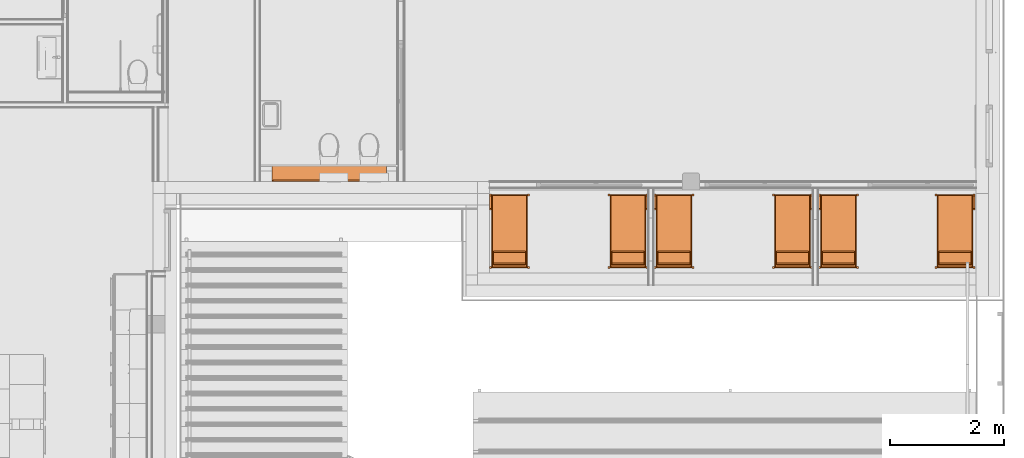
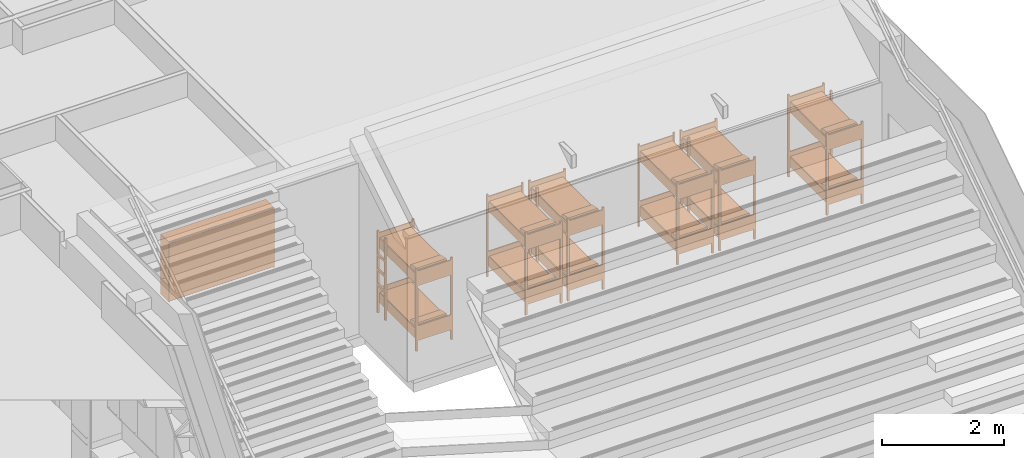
# One storey, part 108 of 167: 7 proxies.
"""IFC2X3 building model written with IfcOpenShell, lengths in millimetres."""

from ifc_helpers import new_model, entity, si_unit, converted_unit, derived_unit, money_unit, direction, frame, origin_with_axes, place, context, subcontext, project, spatial, faceted_brep, source, transform, mapped, type_object, type_shapes, element, save


model = new_model("IFC2X3")

# Units and contexts
model_context = context("Model", 3, precision=0.01, world=origin_with_axes(), true_north=direction((0.0, 1.0)))
plan_context = context("Plan", 3, precision=0.01, world=origin_with_axes(), true_north=direction((0.0, 1.0)))
body_context = subcontext(model_context, "Body", "Model", "MODEL_VIEW")
ifc_project = project(units=[si_unit("LENGTHUNIT", "METRE", prefix="MILLI"), si_unit("AREAUNIT", "SQUARE_METRE"), si_unit("VOLUMEUNIT", "CUBIC_METRE"), converted_unit("PLANEANGLEUNIT", "DEGREE", entity("IfcPlaneAngleMeasure", 0.0174532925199), si_unit("PLANEANGLEUNIT", "RADIAN"), dimensions=[0, 0, 0, 0, 0, 0, 0]), si_unit("SOLIDANGLEUNIT", "STERADIAN"), money_unit("EUR"), converted_unit("TIMEUNIT", "Year", entity("IfcTimeMeasure", 31556926.0), si_unit("TIMEUNIT", "SECOND"), dimensions=[0, 0, 1, 0, 0, 0, 0]), si_unit("MASSUNIT", "GRAM", prefix="KILO"), si_unit("THERMODYNAMICTEMPERATUREUNIT", "DEGREE_CELSIUS"), si_unit("LUMINOUSINTENSITYUNIT", "LUMEN"), si_unit("ENERGYUNIT", "JOULE", prefix="MEGA"), derived_unit("THERMALCONDUCTANCEUNIT", [(si_unit("POWERUNIT", "WATT"), 1), (si_unit("LENGTHUNIT", "METRE"), -1), (si_unit("THERMODYNAMICTEMPERATUREUNIT", "KELVIN"), -1)]), derived_unit("SPECIFICHEATCAPACITYUNIT", [(si_unit("ENERGYUNIT", "JOULE"), 1), (si_unit("MASSUNIT", "GRAM", prefix="KILO"), -1), (si_unit("THERMODYNAMICTEMPERATUREUNIT", "KELVIN"), -1)]), derived_unit("MASSDENSITYUNIT", [(si_unit("MASSUNIT", "GRAM", prefix="KILO"), 1), (si_unit("VOLUMEUNIT", "CUBIC_METRE"), -1)])], contexts=[model_context, plan_context])

# Site, building, storey
site_placement = place(None, origin_with_axes())
site = spatial("IfcSite", under=ifc_project, at=site_placement, Name="Site", CompositionType="ELEMENT")
building_placement = place(site_placement, origin_with_axes())
building = spatial("IfcBuilding", under=site, at=building_placement, Name="Naam gebouw", CompositionType="ELEMENT")
storey_placement = place(building_placement, origin_with_axes())
storey = spatial("IfcBuildingStorey", under=building, at=storey_placement, Name="Begane grond", CompositionType="ELEMENT", Elevation=0.0)

# Proxies
building_element_proxy_type_1 = type_object("IfcBuildingElementProxyType", Name="Stapelbed 24", PredefinedType="NOTDEFINED")
shared_shape_1 = source(origin_with_axes(), body_context, "Body", "Brep", [
    faceted_brep([(35.0, 1265.0, 0.0), (0.0, 1265.0, 0.0), (0.0, 1296.25, 0.0), (35.0, 1296.25, 0.0), (35.0, 1265.0, 1650.0), (0.0, 1265.0, 1650.0), (0.0, 1296.25, 1650.0), (35.0, 1296.25, 1650.0)], [[[0, 1, 2, 3]], [[1, 0, 4, 5]], [[2, 1, 5, 6]], [[3, 2, 6, 7]], [[0, 3, 7, 4]], [[5, 4, 7, 6]]]),
    faceted_brep([(35.0, -3.75, 0.0), (0.0, -3.75, 0.0), (0.0, 27.5, 0.0), (35.0, 27.5, 0.0), (35.0, -3.75, 1650.0), (0.0, -3.75, 1650.0), (0.0, 27.5, 1650.0), (35.0, 27.5, 1650.0)], [[[0, 1, 2, 3]], [[1, 0, 4, 5]], [[2, 1, 5, 6]], [[3, 2, 6, 7]], [[0, 3, 7, 4]], [[5, 4, 7, 6]]]),
    faceted_brep([(700.0, -3.75, 0.0), (665.0, -3.75, 0.0), (665.0, 27.5, 0.0), (700.0, 27.5, 0.0), (700.0, -3.75, 1650.0), (665.0, -3.75, 1650.0), (665.0, 27.5, 1650.0), (700.0, 27.5, 1650.0)], [[[0, 1, 2, 3]], [[1, 0, 4, 5]], [[2, 1, 5, 6]], [[3, 2, 6, 7]], [[0, 3, 7, 4]], [[5, 4, 7, 6]]]),
    faceted_brep([(700.0, 246.25, 0.0), (665.0, 246.25, 0.0), (665.0, 277.5, 0.0), (700.0, 277.5, 0.0), (700.0, 246.25, 1650.0), (665.0, 246.25, 1650.0), (665.0, 277.5, 1650.0), (700.0, 277.5, 1650.0)], [[[0, 1, 2, 3]], [[1, 0, 4, 5]], [[2, 1, 5, 6]], [[3, 2, 6, 7]], [[0, 3, 7, 4]], [[5, 4, 7, 6]]]),
    faceted_brep([(700.0, 1265.0, 0.0), (665.0, 1265.0, 0.0), (665.0, 1296.25, 0.0), (700.0, 1296.25, 0.0), (700.0, 1265.0, 1650.0), (665.0, 1265.0, 1650.0), (665.0, 1296.25, 1650.0), (700.0, 1296.25, 1650.0)], [[[0, 1, 2, 3]], [[1, 0, 4, 5]], [[2, 1, 5, 6]], [[3, 2, 6, 7]], [[0, 3, 7, 4]], [[5, 4, 7, 6]]]),
    faceted_brep([(665.0, 27.5, 550.0), (700.0, 27.5, 550.0), (700.0, 27.5, 600.0), (665.0, 27.5, 600.0), (665.0, 246.25, 550.0), (700.0, 246.25, 550.0), (700.0, 246.25, 600.0), (665.0, 246.25, 600.0)], [[[0, 1, 2, 3]], [[0, 4, 5, 1]], [[1, 5, 6, 2]], [[3, 2, 6, 7]], [[4, 0, 3, 7]], [[5, 4, 7, 6]]]),
    faceted_brep([(665.0, 27.5, 850.0), (700.0, 27.5, 850.0), (700.0, 27.5, 900.0), (665.0, 27.5, 900.0), (665.0, 246.25, 850.0), (700.0, 246.25, 850.0), (700.0, 246.25, 900.0), (665.0, 246.25, 900.0)], [[[0, 1, 2, 3]], [[0, 4, 5, 1]], [[1, 5, 6, 2]], [[3, 2, 6, 7]], [[4, 0, 3, 7]], [[5, 4, 7, 6]]]),
    faceted_brep([(665.0, 27.5, 1150.0), (700.0, 27.5, 1150.0), (700.0, 27.5, 1200.0), (665.0, 27.5, 1200.0), (665.0, 246.25, 1150.0), (700.0, 246.25, 1150.0), (700.0, 246.25, 1200.0), (665.0, 246.25, 1200.0)], [[[0, 1, 2, 3]], [[0, 4, 5, 1]], [[1, 5, 6, 2]], [[3, 2, 6, 7]], [[4, 0, 3, 7]], [[5, 4, 7, 6]]]),
    faceted_brep([(35.0, 1271.25, 200.0), (665.0, 1271.25, 200.0), (665.0, 21.25, 200.0), (35.0, 21.25, 200.0), (35.0, 1271.25, 300.0), (665.0, 1271.25, 300.0), (665.0, 21.25, 300.0), (35.0, 21.25, 300.0)], [[[0, 1, 2, 3]], [[0, 4, 5, 1]], [[1, 5, 6, 2]], [[3, 2, 6, 7]], [[4, 0, 3, 7]], [[5, 4, 7, 6]]]),
    faceted_brep([(665.0, 1271.25, 300.0), (665.0, 1271.25, 375.0), (665.0, 21.25, 375.0), (665.0, 21.25, 300.0), (35.0, 1271.25, 300.0), (35.0, 1271.25, 375.0), (40.1256313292, 1271.25, 392.67766953), (52.5, 1271.25, 400.0), (647.5, 1271.25, 400.0), (659.874368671, 1271.25, 392.67766953), (659.874368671, 21.25, 392.67766953), (647.5, 21.25, 400.0), (52.5, 21.25, 400.0), (40.1256313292, 21.25, 392.67766953), (35.0, 21.25, 375.0), (35.0, 21.25, 300.0)], [[[0, 1, 2, 3]], [[0, 4, 5, 6, 7, 8, 9, 1]], [[1, 9, 10, 2]], [[3, 2, 10, 11, 12, 13, 14, 15]], [[4, 0, 3, 15]], [[5, 4, 15, 14]], [[6, 5, 14, 13]], [[7, 6, 13, 12]], [[8, 7, 12, 11]], [[9, 8, 11, 10]]]),
    faceted_brep([(35.0, 1271.25, 1300.0), (665.0, 1271.25, 1300.0), (665.0, 21.25, 1300.0), (35.0, 21.25, 1300.0), (35.0, 1271.25, 1400.0), (665.0, 1271.25, 1400.0), (665.0, 21.25, 1400.0), (35.0, 21.25, 1400.0)], [[[0, 1, 2, 3]], [[0, 4, 5, 1]], [[1, 5, 6, 2]], [[3, 2, 6, 7]], [[4, 0, 3, 7]], [[5, 4, 7, 6]]]),
    faceted_brep([(665.0, 1271.25, 1400.0), (665.0, 1271.25, 1475.0), (665.0, 21.25, 1475.0), (665.0, 21.25, 1400.0), (35.0, 1271.25, 1400.0), (35.0, 1271.25, 1475.0), (40.1256313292, 1271.25, 1492.67766953), (52.5, 1271.25, 1500.0), (647.5, 1271.25, 1500.0), (659.874368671, 1271.25, 1492.67766953), (659.874368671, 21.25, 1492.67766953), (647.5, 21.25, 1500.0), (52.5, 21.25, 1500.0), (40.1256313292, 21.25, 1492.67766953), (35.0, 21.25, 1475.0), (35.0, 21.25, 1400.0)], [[[0, 1, 2, 3]], [[0, 4, 5, 6, 7, 8, 9, 1]], [[1, 9, 10, 2]], [[3, 2, 10, 11, 12, 13, 14, 15]], [[4, 0, 3, 15]], [[5, 4, 15, 14]], [[6, 5, 14, 13]], [[7, 6, 13, 12]], [[8, 7, 12, 11]], [[9, 8, 11, 10]]]),
    faceted_brep([(35.0, 21.25, 200.0), (665.0, 21.25, 200.0), (665.0, 2.5, 200.0), (35.0, 2.5, 200.0), (35.0, 21.25, 500.0), (665.0, 21.25, 500.0), (665.0, 2.5, 500.0), (35.0, 2.5, 500.0)], [[[0, 1, 2, 3]], [[0, 4, 5, 1]], [[1, 5, 6, 2]], [[3, 2, 6, 7]], [[4, 0, 3, 7]], [[5, 4, 7, 6]]]),
    faceted_brep([(35.0, 21.25, 1300.0), (665.0, 21.25, 1300.0), (665.0, 2.5, 1300.0), (35.0, 2.5, 1300.0), (35.0, 21.25, 1600.0), (665.0, 21.25, 1600.0), (665.0, 2.5, 1600.0), (35.0, 2.5, 1600.0)], [[[0, 1, 2, 3]], [[0, 4, 5, 1]], [[1, 5, 6, 2]], [[3, 2, 6, 7]], [[4, 0, 3, 7]], [[5, 4, 7, 6]]]),
    faceted_brep([(35.0, 1290.0, 200.0), (665.0, 1290.0, 200.0), (665.0, 1271.25, 200.0), (35.0, 1271.25, 200.0), (35.0, 1290.0, 500.0), (665.0, 1290.0, 500.0), (665.0, 1271.25, 500.0), (35.0, 1271.25, 500.0)], [[[0, 1, 2, 3]], [[0, 4, 5, 1]], [[1, 5, 6, 2]], [[3, 2, 6, 7]], [[4, 0, 3, 7]], [[5, 4, 7, 6]]]),
    faceted_brep([(35.0, 1290.0, 1300.0), (665.0, 1290.0, 1300.0), (665.0, 1271.25, 1300.0), (35.0, 1271.25, 1300.0), (35.0, 1290.0, 1600.0), (665.0, 1290.0, 1600.0), (665.0, 1271.25, 1600.0), (35.0, 1271.25, 1600.0)], [[[0, 1, 2, 3]], [[0, 4, 5, 1]], [[1, 5, 6, 2]], [[3, 2, 6, 7]], [[4, 0, 3, 7]], [[5, 4, 7, 6]]]),
    faceted_brep([(70.0, 1240.0, 400.0), (70.0, 1240.0, 443.4), (630.0, 1240.0, 443.4), (630.0, 1240.0, 400.0), (70.0, 990.0, 400.0), (70.0, 996.575217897, 436.730697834), (70.0, 1017.375, 455.5), (70.0, 1204.875, 493.0), (70.0, 1229.43106723, 480.878660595), (630.0, 1229.43106723, 480.878660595), (630.0, 1204.875, 493.0), (630.0, 1017.375, 455.5), (630.0, 996.575217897, 436.730697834), (630.0, 990.0, 400.0)], [[[0, 1, 2, 3]], [[0, 4, 5, 6, 7, 8, 1]], [[1, 8, 9, 2]], [[3, 2, 9, 10, 11, 12, 13]], [[4, 0, 3, 13]], [[5, 4, 13, 12]], [[6, 5, 12, 11]], [[7, 6, 11, 10]], [[8, 7, 10, 9]]]),
    faceted_brep([(70.0, 1240.0, 1500.0), (70.0, 1240.0, 1543.4), (630.0, 1240.0, 1543.4), (630.0, 1240.0, 1500.0), (70.0, 990.0, 1500.0), (70.0, 996.575217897, 1536.73069783), (70.0, 1017.375, 1555.5), (70.0, 1204.875, 1593.0), (70.0, 1229.43106723, 1580.8786606), (630.0, 1229.43106723, 1580.8786606), (630.0, 1204.875, 1593.0), (630.0, 1017.375, 1555.5), (630.0, 996.575217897, 1536.73069783), (630.0, 990.0, 1500.0)], [[[0, 1, 2, 3]], [[0, 4, 5, 6, 7, 8, 1]], [[1, 8, 9, 2]], [[3, 2, 9, 10, 11, 12, 13]], [[4, 0, 3, 13]], [[5, 4, 13, 12]], [[6, 5, 12, 11]], [[7, 6, 11, 10]], [[8, 7, 10, 9]]]),
])
for number, where, z_axis, x_axis in (
    (1, (38049.999841, 31075.0000098, 0.0), (0.0, 0.0, 1.0), (-1.0, 0.0, 0.0)),
    (2, (35174.9998888, 31075.0000131, 0.0), (0.0, 0.0, 1.0), (-1.0, 0.0, 0.0)),
    (3, (40924.9998595, 31075.0000242, 0.0), (0.0, 0.0, 1.0), (-1.0, 0.0, 0.0)),
):
    element("IfcBuildingElementProxy", number, at=place(storey_placement, frame(where, z_axis=z_axis, x_axis=x_axis)), inside=storey, type_object=building_element_proxy_type_1, Name="__object-x", context=body_context, shape_type="MappedRepresentation", body=[
        mapped(shared_shape_1, transform((0.0, 0.0, 0.0))),
    ])
shared_shape_2 = source(origin_with_axes(), body_context, "Body", "Brep", [
    faceted_brep([(-35.0, 1265.0, 0.0), (-35.0, 1296.25, 0.0), (0.0, 1296.25, 0.0), (0.0, 1265.0, 0.0), (-35.0, 1265.0, 1650.0), (-35.0, 1296.25, 1650.0), (0.0, 1296.25, 1650.0), (0.0, 1265.0, 1650.0)], [[[0, 1, 2, 3]], [[0, 4, 5, 1]], [[1, 5, 6, 2]], [[2, 6, 7, 3]], [[3, 7, 4, 0]], [[7, 6, 5, 4]]]),
    faceted_brep([(-35.0, -3.75, 0.0), (-35.0, 27.5, 0.0), (0.0, 27.5, 0.0), (0.0, -3.75, 0.0), (-35.0, -3.75, 1650.0), (-35.0, 27.5, 1650.0), (0.0, 27.5, 1650.0), (0.0, -3.75, 1650.0)], [[[0, 1, 2, 3]], [[0, 4, 5, 1]], [[1, 5, 6, 2]], [[2, 6, 7, 3]], [[3, 7, 4, 0]], [[7, 6, 5, 4]]]),
    faceted_brep([(-700.0, -3.75, 0.0), (-700.0, 27.5, 0.0), (-665.0, 27.5, 0.0), (-665.0, -3.75, 0.0), (-700.0, -3.75, 1650.0), (-700.0, 27.5, 1650.0), (-665.0, 27.5, 1650.0), (-665.0, -3.75, 1650.0)], [[[0, 1, 2, 3]], [[0, 4, 5, 1]], [[1, 5, 6, 2]], [[2, 6, 7, 3]], [[3, 7, 4, 0]], [[7, 6, 5, 4]]]),
    faceted_brep([(-700.0, 246.25, 0.0), (-700.0, 277.5, 0.0), (-665.0, 277.5, 0.0), (-665.0, 246.25, 0.0), (-700.0, 246.25, 1650.0), (-700.0, 277.5, 1650.0), (-665.0, 277.5, 1650.0), (-665.0, 246.25, 1650.0)], [[[0, 1, 2, 3]], [[0, 4, 5, 1]], [[1, 5, 6, 2]], [[2, 6, 7, 3]], [[3, 7, 4, 0]], [[7, 6, 5, 4]]]),
    faceted_brep([(-700.0, 1265.0, 0.0), (-700.0, 1296.25, 0.0), (-665.0, 1296.25, 0.0), (-665.0, 1265.0, 0.0), (-700.0, 1265.0, 1650.0), (-700.0, 1296.25, 1650.0), (-665.0, 1296.25, 1650.0), (-665.0, 1265.0, 1650.0)], [[[0, 1, 2, 3]], [[0, 4, 5, 1]], [[1, 5, 6, 2]], [[2, 6, 7, 3]], [[3, 7, 4, 0]], [[7, 6, 5, 4]]]),
    faceted_brep([(-665.0, 27.5, 550.0), (-665.0, 27.5, 600.0), (-700.0, 27.5, 600.0), (-700.0, 27.5, 550.0), (-665.0, 246.25, 550.0), (-665.0, 246.25, 600.0), (-700.0, 246.25, 600.0), (-700.0, 246.25, 550.0)], [[[0, 1, 2, 3]], [[4, 5, 1, 0]], [[1, 5, 6, 2]], [[3, 2, 6, 7]], [[0, 3, 7, 4]], [[7, 6, 5, 4]]]),
    faceted_brep([(-665.0, 27.5, 850.0), (-665.0, 27.5, 900.0), (-700.0, 27.5, 900.0), (-700.0, 27.5, 850.0), (-665.0, 246.25, 850.0), (-665.0, 246.25, 900.0), (-700.0, 246.25, 900.0), (-700.0, 246.25, 850.0)], [[[0, 1, 2, 3]], [[4, 5, 1, 0]], [[1, 5, 6, 2]], [[3, 2, 6, 7]], [[0, 3, 7, 4]], [[7, 6, 5, 4]]]),
    faceted_brep([(-665.0, 27.5, 1150.0), (-665.0, 27.5, 1200.0), (-700.0, 27.5, 1200.0), (-700.0, 27.5, 1150.0), (-665.0, 246.25, 1150.0), (-665.0, 246.25, 1200.0), (-700.0, 246.25, 1200.0), (-700.0, 246.25, 1150.0)], [[[0, 1, 2, 3]], [[4, 5, 1, 0]], [[1, 5, 6, 2]], [[3, 2, 6, 7]], [[0, 3, 7, 4]], [[7, 6, 5, 4]]]),
    faceted_brep([(-35.0, 1271.25, 200.0), (-35.0, 21.25, 200.0), (-665.0, 21.25, 200.0), (-665.0, 1271.25, 200.0), (-35.0, 1271.25, 300.0), (-35.0, 21.25, 300.0), (-665.0, 21.25, 300.0), (-665.0, 1271.25, 300.0)], [[[0, 1, 2, 3]], [[4, 5, 1, 0]], [[1, 5, 6, 2]], [[3, 2, 6, 7]], [[0, 3, 7, 4]], [[7, 6, 5, 4]]]),
    faceted_brep([(-665.0, 1271.25, 300.0), (-665.0, 21.25, 300.0), (-665.0, 21.25, 375.0), (-665.0, 1271.25, 375.0), (-35.0, 1271.25, 300.0), (-35.0, 21.25, 300.0), (-35.0, 21.25, 375.0), (-40.1256313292, 21.25, 392.67766953), (-52.5, 21.25, 400.0), (-647.5, 21.25, 400.0), (-659.874368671, 21.25, 392.67766953), (-659.874368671, 1271.25, 392.67766953), (-647.5, 1271.25, 400.0), (-52.5, 1271.25, 400.0), (-40.1256313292, 1271.25, 392.67766953), (-35.0, 1271.25, 375.0)], [[[0, 1, 2, 3]], [[4, 5, 1, 0]], [[1, 5, 6, 7, 8, 9, 10, 2]], [[3, 2, 10, 11]], [[0, 3, 11, 12, 13, 14, 15, 4]], [[15, 6, 5, 4]], [[14, 7, 6, 15]], [[13, 8, 7, 14]], [[12, 9, 8, 13]], [[11, 10, 9, 12]]]),
    faceted_brep([(-35.0, 1271.25, 1300.0), (-35.0, 21.25, 1300.0), (-665.0, 21.25, 1300.0), (-665.0, 1271.25, 1300.0), (-35.0, 1271.25, 1400.0), (-35.0, 21.25, 1400.0), (-665.0, 21.25, 1400.0), (-665.0, 1271.25, 1400.0)], [[[0, 1, 2, 3]], [[4, 5, 1, 0]], [[1, 5, 6, 2]], [[3, 2, 6, 7]], [[0, 3, 7, 4]], [[7, 6, 5, 4]]]),
    faceted_brep([(-665.0, 1271.25, 1400.0), (-665.0, 21.25, 1400.0), (-665.0, 21.25, 1475.0), (-665.0, 1271.25, 1475.0), (-35.0, 1271.25, 1400.0), (-35.0, 21.25, 1400.0), (-35.0, 21.25, 1475.0), (-40.1256313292, 21.25, 1492.67766953), (-52.5, 21.25, 1500.0), (-647.5, 21.25, 1500.0), (-659.874368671, 21.25, 1492.67766953), (-659.874368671, 1271.25, 1492.67766953), (-647.5, 1271.25, 1500.0), (-52.5, 1271.25, 1500.0), (-40.1256313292, 1271.25, 1492.67766953), (-35.0, 1271.25, 1475.0)], [[[0, 1, 2, 3]], [[4, 5, 1, 0]], [[1, 5, 6, 7, 8, 9, 10, 2]], [[3, 2, 10, 11]], [[0, 3, 11, 12, 13, 14, 15, 4]], [[15, 6, 5, 4]], [[14, 7, 6, 15]], [[13, 8, 7, 14]], [[12, 9, 8, 13]], [[11, 10, 9, 12]]]),
    faceted_brep([(-35.0, 21.25, 200.0), (-35.0, 2.5, 200.0), (-665.0, 2.5, 200.0), (-665.0, 21.25, 200.0), (-35.0, 21.25, 500.0), (-35.0, 2.5, 500.0), (-665.0, 2.5, 500.0), (-665.0, 21.25, 500.0)], [[[0, 1, 2, 3]], [[4, 5, 1, 0]], [[1, 5, 6, 2]], [[3, 2, 6, 7]], [[0, 3, 7, 4]], [[7, 6, 5, 4]]]),
    faceted_brep([(-35.0, 21.25, 1300.0), (-35.0, 2.5, 1300.0), (-665.0, 2.5, 1300.0), (-665.0, 21.25, 1300.0), (-35.0, 21.25, 1600.0), (-35.0, 2.5, 1600.0), (-665.0, 2.5, 1600.0), (-665.0, 21.25, 1600.0)], [[[0, 1, 2, 3]], [[4, 5, 1, 0]], [[1, 5, 6, 2]], [[3, 2, 6, 7]], [[0, 3, 7, 4]], [[7, 6, 5, 4]]]),
    faceted_brep([(-35.0, 1290.0, 200.0), (-35.0, 1271.25, 200.0), (-665.0, 1271.25, 200.0), (-665.0, 1290.0, 200.0), (-35.0, 1290.0, 500.0), (-35.0, 1271.25, 500.0), (-665.0, 1271.25, 500.0), (-665.0, 1290.0, 500.0)], [[[0, 1, 2, 3]], [[4, 5, 1, 0]], [[1, 5, 6, 2]], [[3, 2, 6, 7]], [[0, 3, 7, 4]], [[7, 6, 5, 4]]]),
    faceted_brep([(-35.0, 1290.0, 1300.0), (-35.0, 1271.25, 1300.0), (-665.0, 1271.25, 1300.0), (-665.0, 1290.0, 1300.0), (-35.0, 1290.0, 1600.0), (-35.0, 1271.25, 1600.0), (-665.0, 1271.25, 1600.0), (-665.0, 1290.0, 1600.0)], [[[0, 1, 2, 3]], [[4, 5, 1, 0]], [[1, 5, 6, 2]], [[3, 2, 6, 7]], [[0, 3, 7, 4]], [[7, 6, 5, 4]]]),
    faceted_brep([(-70.0, 1240.0, 400.0), (-630.0, 1240.0, 400.0), (-630.0, 1240.0, 443.4), (-70.0, 1240.0, 443.4), (-70.0, 990.0, 400.0), (-630.0, 990.0, 400.0), (-630.0, 996.575217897, 436.730697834), (-630.0, 1017.375, 455.5), (-630.0, 1204.875, 493.0), (-630.0, 1229.43106723, 480.878660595), (-70.0, 1229.43106723, 480.878660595), (-70.0, 1204.875, 493.0), (-70.0, 1017.375, 455.5), (-70.0, 996.575217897, 436.730697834)], [[[0, 1, 2, 3]], [[4, 5, 1, 0]], [[1, 5, 6, 7, 8, 9, 2]], [[3, 2, 9, 10]], [[0, 3, 10, 11, 12, 13, 4]], [[13, 6, 5, 4]], [[12, 7, 6, 13]], [[11, 8, 7, 12]], [[10, 9, 8, 11]]]),
    faceted_brep([(-70.0, 1240.0, 1500.0), (-630.0, 1240.0, 1500.0), (-630.0, 1240.0, 1543.4), (-70.0, 1240.0, 1543.4), (-70.0, 990.0, 1500.0), (-630.0, 990.0, 1500.0), (-630.0, 996.575217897, 1536.73069783), (-630.0, 1017.375, 1555.5), (-630.0, 1204.875, 1593.0), (-630.0, 1229.43106723, 1580.8786606), (-70.0, 1229.43106723, 1580.8786606), (-70.0, 1204.875, 1593.0), (-70.0, 1017.375, 1555.5), (-70.0, 996.575217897, 1536.73069783)], [[[0, 1, 2, 3]], [[4, 5, 1, 0]], [[1, 5, 6, 7, 8, 9, 2]], [[3, 2, 9, 10]], [[0, 3, 10, 11, 12, 13, 4]], [[13, 6, 5, 4]], [[12, 7, 6, 13]], [[11, 8, 7, 12]], [[10, 9, 8, 11]]]),
])
type_shapes(building_element_proxy_type_1, [shared_shape_1, shared_shape_2])
for number, where, z_axis, x_axis in (
    (4, (39424.9998534, 31075.0000098, 0.0), (0.0, 0.0, 1.0), (-1.0, 0.0, 0.0)),
    (5, (42263.4822116, 31075.0000131, 0.0), (0.0, 0.0, 1.0), (-1.0, 0.0, 0.0)),
    (6, (36549.9998349, 31075.0000242, 0.0), (0.0, 0.0, 1.0), (-1.0, 0.0, 0.0)),
):
    element("IfcBuildingElementProxy", number, at=place(storey_placement, frame(where, z_axis=z_axis, x_axis=x_axis)), inside=storey, type_object=building_element_proxy_type_1, Name="__object-x", context=body_context, shape_type="MappedRepresentation", body=[
        mapped(shared_shape_2, transform((0.0, 0.0, 0.0))),
    ])
building_element_proxy_type_2 = type_object("IfcBuildingElementProxyType", Name="Boekenplank 01 24", PredefinedType="NOTDEFINED")
shared_shape_3 = source(origin_with_axes(), body_context, "Body", "Brep", [
    faceted_brep([(1980.0, 280.0, 20.0), (1980.0, 280.0, 1180.0), (1980.0, 260.0, 1180.0), (1980.0, 260.0, 20.0), (20.0, 280.0, 20.0), (20.0, 280.0, 1180.0), (20.0, 260.0, 1180.0), (20.0, 260.0, 20.0)], [[[0, 1, 2, 3]], [[4, 5, 1, 0]], [[1, 5, 6, 2]], [[3, 2, 6, 7]], [[0, 3, 7, 4]], [[7, 6, 5, 4]]]),
    faceted_brep([(1980.0, 260.0, 0.0), (1980.0, 260.0, 30.0), (1980.0, 0.0, 30.0), (1980.0, 0.0, 0.0), (1010.0, 260.0, 0.0), (1010.0, 260.0, 30.0), (1010.0, 0.0, 30.0), (1010.0, 0.0, 0.0)], [[[0, 1, 2, 3]], [[4, 5, 1, 0]], [[1, 5, 6, 2]], [[3, 2, 6, 7]], [[0, 3, 7, 4]], [[7, 6, 5, 4]]]),
    faceted_brep([(990.0, 260.0, 0.0), (990.0, 260.0, 30.0), (990.0, 0.0, 30.0), (990.0, 0.0, 0.0), (20.0, 260.0, 0.0), (20.0, 260.0, 30.0), (20.0, 0.0, 30.0), (20.0, 0.0, 0.0)], [[[0, 1, 2, 3]], [[4, 5, 1, 0]], [[1, 5, 6, 2]], [[3, 2, 6, 7]], [[0, 3, 7, 4]], [[7, 6, 5, 4]]]),
    faceted_brep([(1980.0, 260.0, 1170.0), (1980.0, 260.0, 1200.0), (1980.0, 0.0, 1200.0), (1980.0, 0.0, 1170.0), (1010.0, 260.0, 1170.0), (1010.0, 260.0, 1200.0), (1010.0, 0.0, 1200.0), (1010.0, 0.0, 1170.0)], [[[0, 1, 2, 3]], [[4, 5, 1, 0]], [[1, 5, 6, 2]], [[3, 2, 6, 7]], [[0, 3, 7, 4]], [[7, 6, 5, 4]]]),
    faceted_brep([(990.0, 260.0, 1170.0), (990.0, 260.0, 1200.0), (990.0, 0.0, 1200.0), (990.0, 0.0, 1170.0), (20.0, 260.0, 1170.0), (20.0, 260.0, 1200.0), (20.0, 0.0, 1200.0), (20.0, 0.0, 1170.0)], [[[0, 1, 2, 3]], [[4, 5, 1, 0]], [[1, 5, 6, 2]], [[3, 2, 6, 7]], [[0, 3, 7, 4]], [[7, 6, 5, 4]]]),
    faceted_brep([(20.0, 0.0, 0.0), (20.0, 0.0, 1200.0), (0.0, 0.0, 1200.0), (0.0, 0.0, 0.0), (20.0, 280.0, 0.0), (20.0, 280.0, 1200.0), (0.0, 280.0, 1200.0), (0.0, 280.0, 0.0)], [[[0, 1, 2, 3]], [[4, 5, 1, 0]], [[1, 5, 6, 2]], [[3, 2, 6, 7]], [[0, 3, 7, 4]], [[7, 6, 5, 4]]]),
    faceted_brep([(1980.0, 280.0, 0.0), (1980.0, 280.0, 1200.0), (2000.0, 280.0, 1200.0), (2000.0, 280.0, 0.0), (1980.0, 0.0, 0.0), (1980.0, 0.0, 1200.0), (2000.0, 0.0, 1200.0), (2000.0, 0.0, 0.0)], [[[0, 1, 2, 3]], [[4, 5, 1, 0]], [[1, 5, 6, 2]], [[3, 2, 6, 7]], [[0, 3, 7, 4]], [[7, 6, 5, 4]]]),
    faceted_brep([(990.0, 260.0, 0.0), (990.0, 260.0, 1200.0), (1010.0, 260.0, 1200.0), (1010.0, 260.0, 0.0), (990.0, 0.0, 0.0), (990.0, 0.0, 1200.0), (1010.0, 0.0, 1200.0), (1010.0, 0.0, 0.0)], [[[0, 1, 2, 3]], [[4, 5, 1, 0]], [[1, 5, 6, 2]], [[3, 2, 6, 7]], [[0, 3, 7, 4]], [[7, 6, 5, 4]]]),
    faceted_brep([(1980.0, 260.0, 236.0), (1980.0, 260.0, 256.0), (1980.0, 0.0, 256.0), (1980.0, 0.0, 236.0), (1010.0, 260.0, 236.0), (1010.0, 260.0, 256.0), (1010.0, 0.0, 256.0), (1010.0, 0.0, 236.0)], [[[0, 1, 2, 3]], [[4, 5, 1, 0]], [[1, 5, 6, 2]], [[3, 2, 6, 7]], [[0, 3, 7, 4]], [[7, 6, 5, 4]]]),
    faceted_brep([(1980.0, 260.0, 472.0), (1980.0, 260.0, 492.0), (1980.0, 0.0, 492.0), (1980.0, 0.0, 472.0), (1010.0, 260.0, 472.0), (1010.0, 260.0, 492.0), (1010.0, 0.0, 492.0), (1010.0, 0.0, 472.0)], [[[0, 1, 2, 3]], [[4, 5, 1, 0]], [[1, 5, 6, 2]], [[3, 2, 6, 7]], [[0, 3, 7, 4]], [[7, 6, 5, 4]]]),
    faceted_brep([(1980.0, 260.0, 708.0), (1980.0, 260.0, 728.0), (1980.0, 0.0, 728.0), (1980.0, 0.0, 708.0), (1010.0, 260.0, 708.0), (1010.0, 260.0, 728.0), (1010.0, 0.0, 728.0), (1010.0, 0.0, 708.0)], [[[0, 1, 2, 3]], [[4, 5, 1, 0]], [[1, 5, 6, 2]], [[3, 2, 6, 7]], [[0, 3, 7, 4]], [[7, 6, 5, 4]]]),
    faceted_brep([(1980.0, 260.0, 944.0), (1980.0, 260.0, 964.0), (1980.0, 0.0, 964.0), (1980.0, 0.0, 944.0), (1010.0, 260.0, 944.0), (1010.0, 260.0, 964.0), (1010.0, 0.0, 964.0), (1010.0, 0.0, 944.0)], [[[0, 1, 2, 3]], [[4, 5, 1, 0]], [[1, 5, 6, 2]], [[3, 2, 6, 7]], [[0, 3, 7, 4]], [[7, 6, 5, 4]]]),
    faceted_brep([(990.0, 260.0, 236.0), (990.0, 260.0, 256.0), (990.0, 0.0, 256.0), (990.0, 0.0, 236.0), (20.0, 260.0, 236.0), (20.0, 260.0, 256.0), (20.0, 0.0, 256.0), (20.0, 0.0, 236.0)], [[[0, 1, 2, 3]], [[4, 5, 1, 0]], [[1, 5, 6, 2]], [[3, 2, 6, 7]], [[0, 3, 7, 4]], [[7, 6, 5, 4]]]),
    faceted_brep([(990.0, 260.0, 472.0), (990.0, 260.0, 492.0), (990.0, 0.0, 492.0), (990.0, 0.0, 472.0), (20.0, 260.0, 472.0), (20.0, 260.0, 492.0), (20.0, 0.0, 492.0), (20.0, 0.0, 472.0)], [[[0, 1, 2, 3]], [[4, 5, 1, 0]], [[1, 5, 6, 2]], [[3, 2, 6, 7]], [[0, 3, 7, 4]], [[7, 6, 5, 4]]]),
    faceted_brep([(990.0, 260.0, 708.0), (990.0, 260.0, 728.0), (990.0, 0.0, 728.0), (990.0, 0.0, 708.0), (20.0, 260.0, 708.0), (20.0, 260.0, 728.0), (20.0, 0.0, 728.0), (20.0, 0.0, 708.0)], [[[0, 1, 2, 3]], [[4, 5, 1, 0]], [[1, 5, 6, 2]], [[3, 2, 6, 7]], [[0, 3, 7, 4]], [[7, 6, 5, 4]]]),
    faceted_brep([(990.0, 260.0, 944.0), (990.0, 260.0, 964.0), (990.0, 0.0, 964.0), (990.0, 0.0, 944.0), (20.0, 260.0, 944.0), (20.0, 260.0, 964.0), (20.0, 0.0, 964.0), (20.0, 0.0, 944.0)], [[[0, 1, 2, 3]], [[4, 5, 1, 0]], [[1, 5, 6, 2]], [[3, 2, 6, 7]], [[0, 3, 7, 4]], [[7, 6, 5, 4]]]),
])
type_shapes(building_element_proxy_type_2, [shared_shape_3])
proxy_placement = place(storey_placement, frame((32667.4295664, 31579.9997738, 1400.0), z_axis=(0.0, 0.0, 1.0), x_axis=(-1.0, 0.0, 0.0)))
element("IfcBuildingElementProxy", 7, at=proxy_placement, inside=storey, type_object=building_element_proxy_type_2, Name="__Object-x", context=body_context, shape_type="MappedRepresentation", body=[
    mapped(shared_shape_3, transform((0.0, 0.0, 0.0))),
])

save(model, "model.ifc")
